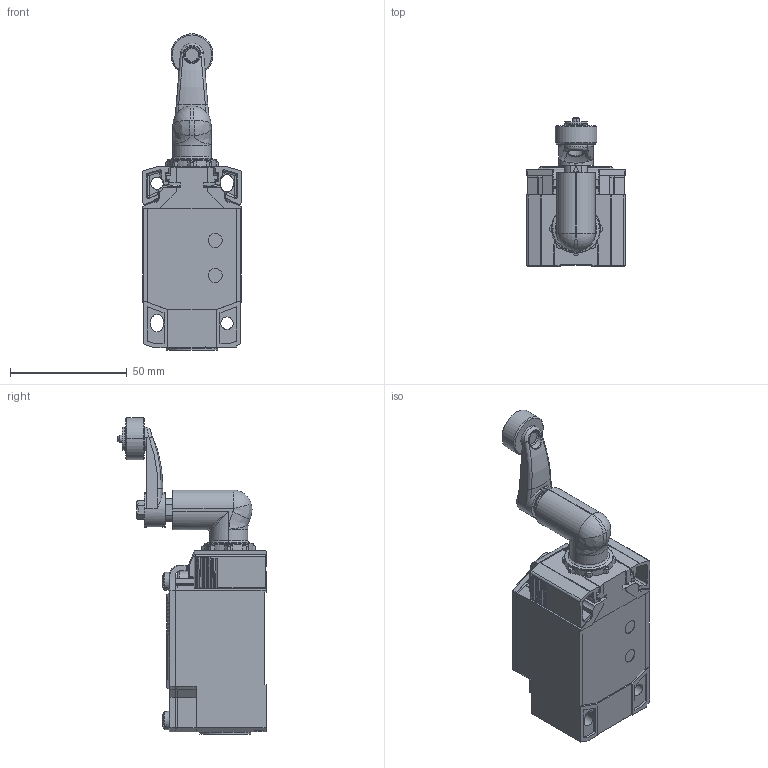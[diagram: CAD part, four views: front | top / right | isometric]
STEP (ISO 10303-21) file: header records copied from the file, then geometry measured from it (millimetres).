
FILE_DESCRIPTION((''),'2;1');
FILE_NAME('6087000127_SCHR','2025-07-16T09:55:05',('Johann.Tissen'),(''),'CREO PARAMETRIC BY PTC INC, 2022124','CREO PARAMETRIC BY PTC INC, 2022124','');
FILE_SCHEMA(('AUTOMOTIVE_DESIGN { 1 0 10303 214 1 1 1 1 }'));
Products named in the file (1): 6087000127_SCHR
Bounding box: 42.48 x 63.5 x 135.71 mm (x, y, z)
Volume: 129184.6 mm3; surface area: 33573.1 mm2
Topology: 1 solids, 2 shells, 2368 faces, 6258 edges, 3939 vertices
Faces by surface type: plane 1218, cylinder 657, cone 156, bspline 148, torus 111, sphere 77, extrusion 1
Entity records: 89861 total; most frequent: CARTESIAN_POINT 32803, ORIENTED_EDGE 12500, DIRECTION 10911, EDGE_CURVE 6250, VERTEX_POINT 3939, AXIS2_PLACEMENT_3D 3733, VECTOR 3442, LINE 3441
